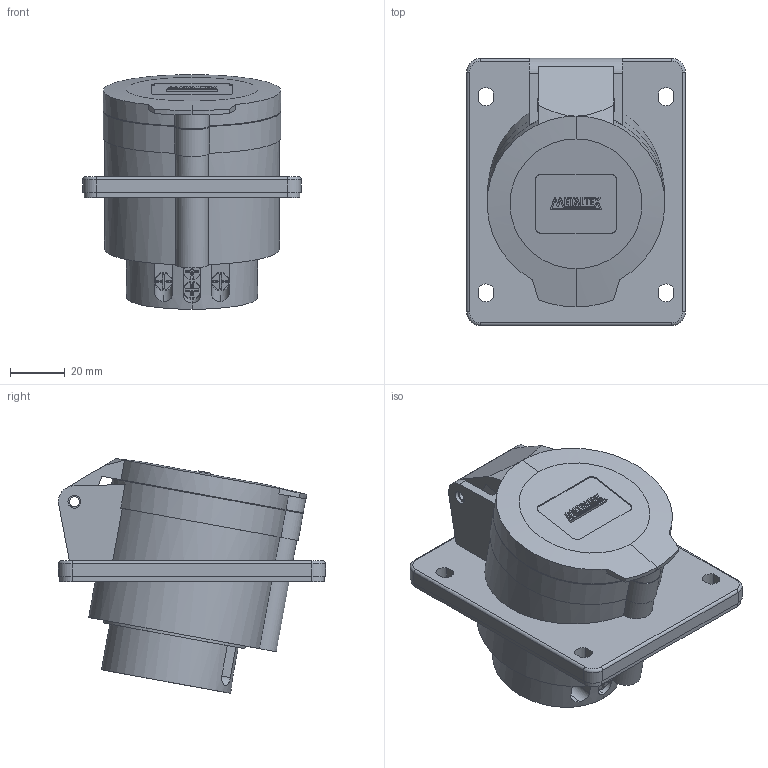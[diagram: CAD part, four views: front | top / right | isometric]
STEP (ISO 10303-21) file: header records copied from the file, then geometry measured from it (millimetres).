
FILE_DESCRIPTION (( 'STEP AP203' ), '1' );
FILE_NAME ('TLI32432..STEP', '2018-04-20T14:17:53', ( '' ), ( '' ), 'SwSTEP 2.0', 'SolidWorks 2012', '' );
FILE_SCHEMA (( 'CONFIG_CONTROL_DESIGN' ));
Length unit declared in the file: millimetre
Products named in the file (4): METALTEX 18,98; TLI32432; TLI32432.
Assembly tree (3 placements, depth 3):
  TLI32432.
    TLI32432
      TLI32432
      METALTEX 18,98
Bounding box: 80 x 97.8 x 85.9 mm (x, y, z)
Volume: 270279.6 mm3; surface area: 40556.8 mm2
Topology: 8 solids, 8 shells, 369 faces, 939 edges, 618 vertices
Faces by surface type: plane 252, cylinder 109, cone 4, torus 4
Entity records: 11813 total; most frequent: CARTESIAN_POINT 2293, ORIENTED_EDGE 1878, DIRECTION 1877, EDGE_CURVE 939, LINE 697, VECTOR 697, VERTEX_POINT 618, AXIS2_PLACEMENT_3D 590
